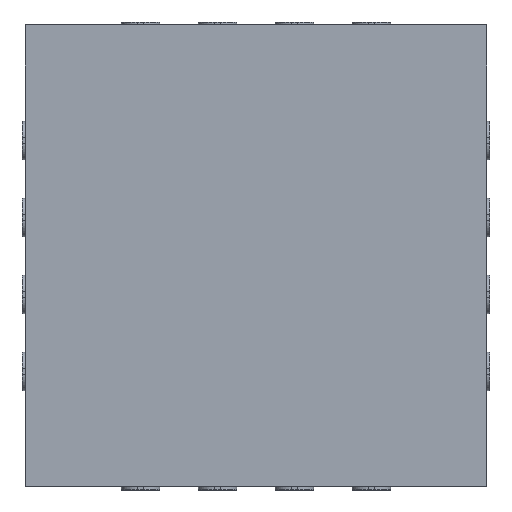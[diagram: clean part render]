
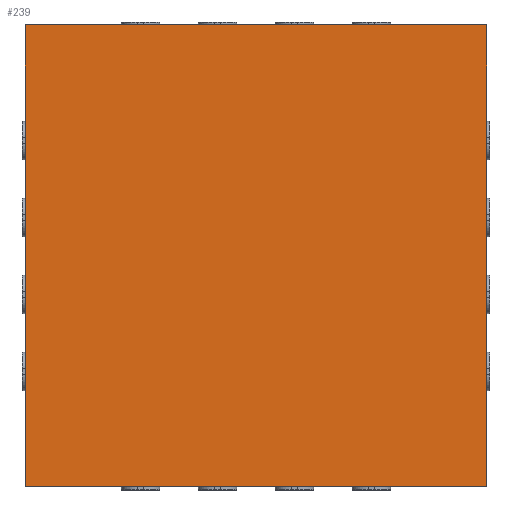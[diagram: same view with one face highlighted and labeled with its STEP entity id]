
A CAD part, top view. The second image highlights one B-rep face of the part: STEP entity #239.
In plain terms, the highlighted planar face has unit normal (0, 0, 1).
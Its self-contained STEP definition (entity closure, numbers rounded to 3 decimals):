
#110 = VERTEX_POINT('',#111);
#111 = CARTESIAN_POINT('',(-1.5,1.5,0.75));
#117 = EDGE_CURVE('',#110,#118,#120,.T.);
#118 = VERTEX_POINT('',#119);
#119 = CARTESIAN_POINT('',(-1.5,-1.5,0.75));
#120 = LINE('',#121,#122);
#121 = CARTESIAN_POINT('',(-1.5,1.5,0.75));
#122 = VECTOR('',#123,1.);
#123 = DIRECTION('',(0.,-1.,0.));
#148 = EDGE_CURVE('',#118,#149,#151,.T.);
#149 = VERTEX_POINT('',#150);
#150 = CARTESIAN_POINT('',(1.5,-1.5,0.75));
#151 = LINE('',#152,#153);
#152 = CARTESIAN_POINT('',(-1.5,-1.5,0.75));
#153 = VECTOR('',#154,1.);
#154 = DIRECTION('',(1.,0.,0.));
#179 = EDGE_CURVE('',#149,#180,#182,.T.);
#180 = VERTEX_POINT('',#181);
#181 = CARTESIAN_POINT('',(1.5,1.5,0.75));
#182 = LINE('',#183,#184);
#183 = CARTESIAN_POINT('',(1.5,-1.5,0.75));
#184 = VECTOR('',#185,1.);
#185 = DIRECTION('',(0.,1.,0.));
#210 = EDGE_CURVE('',#180,#110,#211,.T.);
#211 = LINE('',#212,#213);
#212 = CARTESIAN_POINT('',(1.5,1.5,0.75));
#213 = VECTOR('',#214,1.);
#214 = DIRECTION('',(-1.,0.,0.));
#239 = ADVANCED_FACE('',(#240),#246,.T.);
#240 = FACE_BOUND('',#241,.T.);
#241 = EDGE_LOOP('',(#242,#243,#244,#245));
#242 = ORIENTED_EDGE('',*,*,#117,.T.);
#243 = ORIENTED_EDGE('',*,*,#148,.T.);
#244 = ORIENTED_EDGE('',*,*,#179,.T.);
#245 = ORIENTED_EDGE('',*,*,#210,.T.);
#246 = PLANE('',#247);
#247 = AXIS2_PLACEMENT_3D('',#248,#249,#250);
#248 = CARTESIAN_POINT('',(0.,0.,0.75));
#249 = DIRECTION('',(0.,0.,1.));
#250 = DIRECTION('',(1.,0.,0.));
